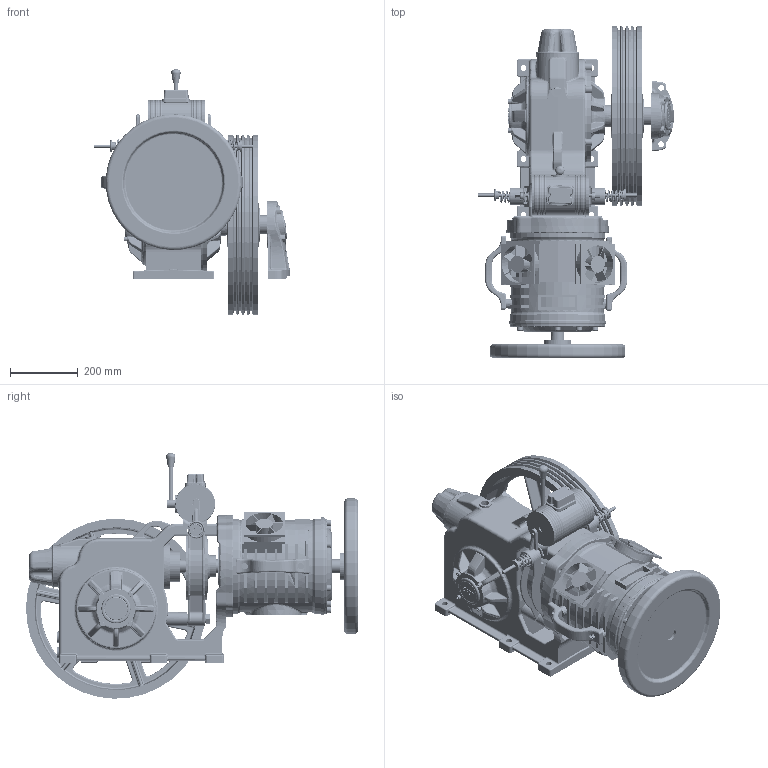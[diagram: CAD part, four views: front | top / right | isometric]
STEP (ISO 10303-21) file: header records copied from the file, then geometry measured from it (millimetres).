
FILE_DESCRIPTION (( 'STEP AP214' ), '1' );
FILE_NAME ('SMC4005021.STEP', '2026-02-02T09:32:54', ( '' ), ( '' ), 'SwSTEP 2.0', 'SolidWorks 2025', '' );
FILE_SCHEMA (( 'AUTOMOTIVE_DESIGN' ));
Length unit declared in the file: millimetre
Products named in the file (1): SMC4005021
Bounding box: 576.66 x 977.27 x 722.39 mm (x, y, z)
Volume: 59342568.1 mm3; surface area: 3821015.3 mm2
Topology: 34 solids, 71 shells, 5163 faces, 12270 edges, 7367 vertices
Faces by surface type: cylinder 1497, bspline 1355, plane 1334, cone 456, torus 420, sphere 101
Entity records: 213196 total; most frequent: CARTESIAN_POINT 102883, ORIENTED_EDGE 24384, DIRECTION 21302, EDGE_CURVE 12192, AXIS2_PLACEMENT_3D 8723, VERTEX_POINT 7359, EDGE_LOOP 5583, ADVANCED_FACE 5163
